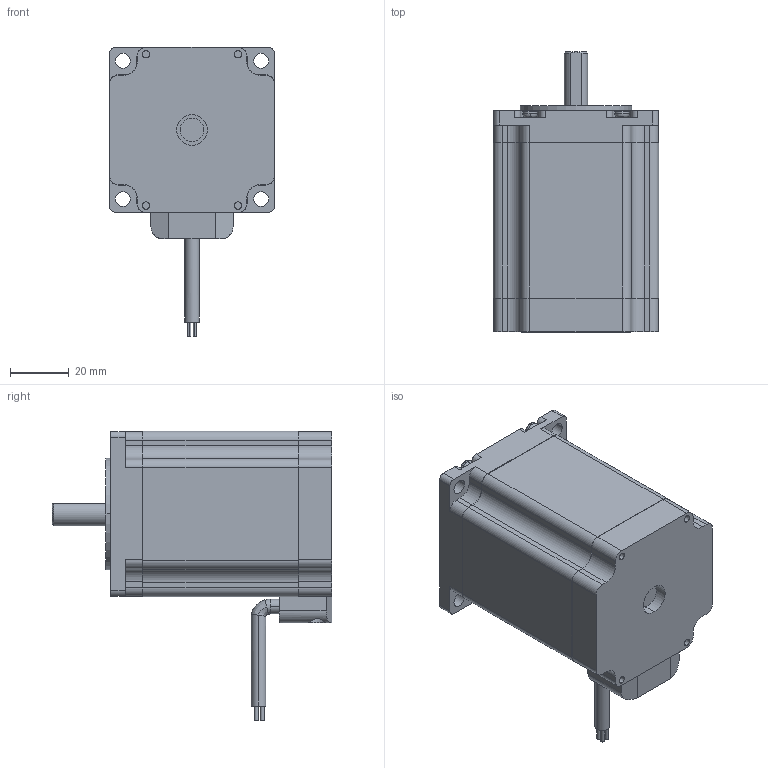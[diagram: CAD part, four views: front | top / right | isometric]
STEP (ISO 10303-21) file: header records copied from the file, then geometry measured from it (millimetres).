
FILE_DESCRIPTION (( 'STEP AP214' ), '1' );
FILE_NAME ('57BYGH276-3004A-8.STEP', '2018-09-14T05:05:54', ( 'Windows' ), ( 'Microsoft' ), 'SwSTEP 2.0', 'SolidWorks 2015', '' );
FILE_SCHEMA (( 'AUTOMOTIVE_DESIGN' ));
Length unit declared in the file: millimetre
Products named in the file (7): 揤盄裔; M3蹟隊; 57H276A-8-20粣; 57ヶ傷裔; 57綴傷裔; 57隅赽53; 57BYGH276-3004A-8
Assembly tree (9 placements, depth 2):
  57BYGH276-3004A-8
    57隅赽53
    57綴傷裔
    57ヶ傷裔
    57H276A-8-20粣
    M3蹟隊  x4
    揤盄裔
Bounding box: 56.4 x 95.5 x 98.73 mm (x, y, z)
Volume: 224087.1 mm3; surface area: 43191.8 mm2
Topology: 9 solids, 9 shells, 294 faces, 766 edges, 500 vertices
Faces by surface type: cylinder 153, plane 117, torus 18, bspline 4, cone 2
Entity records: 8916 total; most frequent: CARTESIAN_POINT 1463, DIRECTION 1311, ORIENTED_EDGE 1190, EDGE_CURVE 595, AXIS2_PLACEMENT_3D 498, VERTEX_POINT 392, LINE 315, VECTOR 315
